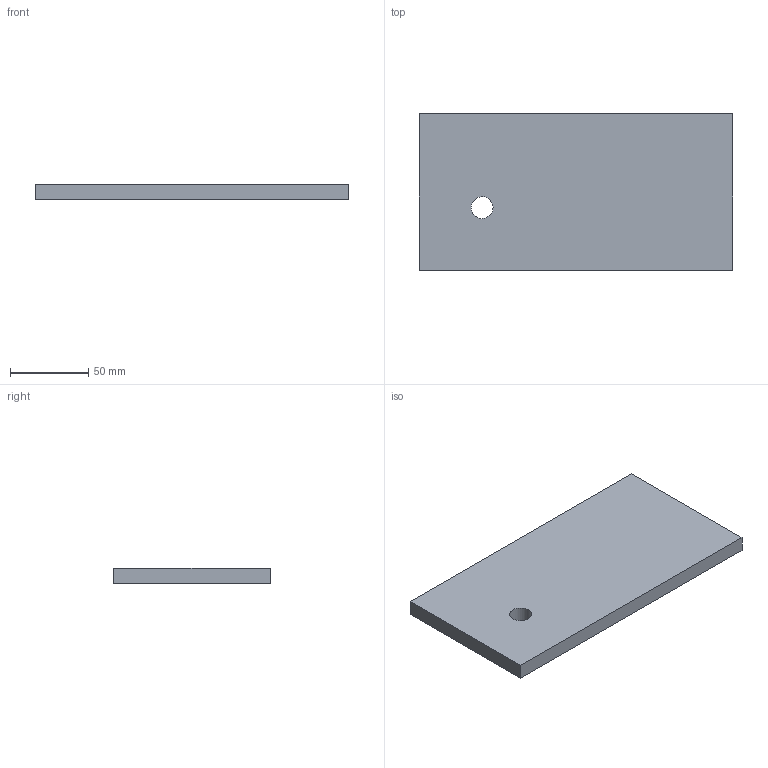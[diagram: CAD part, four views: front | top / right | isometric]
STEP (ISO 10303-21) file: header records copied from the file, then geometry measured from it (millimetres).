
FILE_DESCRIPTION(('Open CASCADE Model'),'2;1');
FILE_NAME('Open CASCADE Shape Model','2026-09-12T13:44:08',('Author'),( 'Open CASCADE'),'Open CASCADE STEP processor 7.9','Open CASCADE 7.9' ,'Unknown');
FILE_SCHEMA(('AUTOMOTIVE_DESIGN { 1 0 10303 214 1 1 1 1 }'));
Length unit declared in the file: millimetre
Products named in the file (2): A1; SAME
Assembly tree (1 placements, depth 2):
  A1
    SAME
Bounding box: 200 x 100 x 10 mm (x, y, z)
Volume: 198441.4 mm3; surface area: 46137.6 mm2
Topology: 1 solids, 1 shells, 7 faces, 15 edges, 10 vertices
Faces by surface type: bspline 7
Entity records: 408 total; most frequent: CARTESIAN_POINT 172, B_SPLINE_CURVE_WITH_KNOTS 41, ORIENTED_EDGE 30, PCURVE 30, DEFINITIONAL_REPRESENTATION 30, EDGE_CURVE 15, SURFACE_CURVE 14, VERTEX_POINT 10
